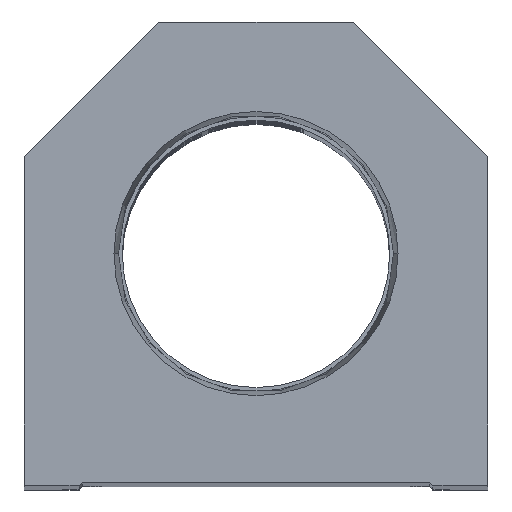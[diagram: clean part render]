
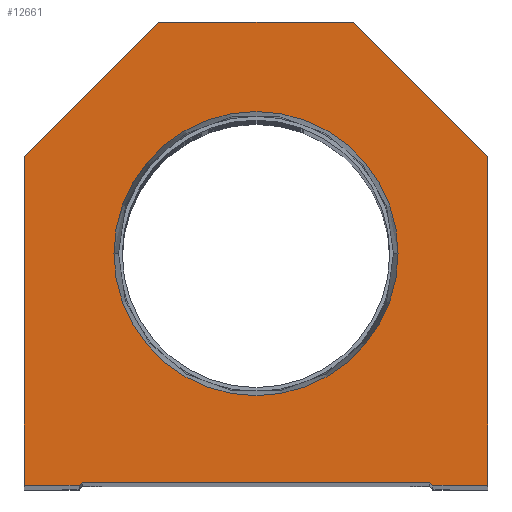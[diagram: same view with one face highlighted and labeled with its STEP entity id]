
A CAD part, top view. The second image highlights one B-rep face of the part: STEP entity #12661.
In plain terms, the highlighted planar face has unit normal (0, 0, 1).
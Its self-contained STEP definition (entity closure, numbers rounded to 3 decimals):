
#290 = CARTESIAN_POINT ( 'NONE',  ( -38.1, 54.1, 0. ) ) ;
#398 = DIRECTION ( 'NONE',  ( -0.707, -0.707, 0. ) ) ;
#625 = DIRECTION ( 'NONE',  ( -1., 0., 0. ) ) ;
#774 = CARTESIAN_POINT ( 'NONE',  ( 16., 76.2, 0. ) ) ;
#890 = EDGE_LOOP ( 'NONE', ( #20116, #17134 ) ) ;
#1413 = ORIENTED_EDGE ( 'NONE', *, *, #19159, .T. ) ;
#1728 = FACE_OUTER_BOUND ( 'NONE', #6979, .T. ) ;
#2006 = LINE ( 'NONE', #290, #9414 ) ;
#2168 = DIRECTION ( 'NONE',  ( -0.707, 0.707, 0. ) ) ;
#2278 = EDGE_CURVE ( 'NONE', #18457, #13259, #13793, .T. ) ;
#2283 = CARTESIAN_POINT ( 'NONE',  ( -16., 76.2, 0. ) ) ;
#2479 = CARTESIAN_POINT ( 'NONE',  ( 0., 38.1, 0. ) ) ;
#2613 = VERTEX_POINT ( 'NONE', #2283 ) ;
#3208 = VECTOR ( 'NONE', #10184, 1000. ) ;
#3381 = VERTEX_POINT ( 'NONE', #11674 ) ;
#3466 = LINE ( 'NONE', #18874, #3208 ) ;
#3636 = VECTOR ( 'NONE', #625, 1000. ) ;
#3738 = VECTOR ( 'NONE', #18887, 1000. ) ;
#3961 = DIRECTION ( 'NONE',  ( 1., 0., 0. ) ) ;
#5020 = EDGE_CURVE ( 'NONE', #18824, #3381, #3466, .T. ) ;
#5120 = ORIENTED_EDGE ( 'NONE', *, *, #11303, .T. ) ;
#5441 = VERTEX_POINT ( 'NONE', #18719 ) ;
#5713 = LINE ( 'NONE', #5904, #3636 ) ;
#5904 = CARTESIAN_POINT ( 'NONE',  ( 16., 76.2, 0. ) ) ;
#6078 = ORIENTED_EDGE ( 'NONE', *, *, #20642, .T. ) ;
#6167 = CARTESIAN_POINT ( 'NONE',  ( 0., 38.1, 0. ) ) ;
#6213 = VERTEX_POINT ( 'NONE', #14356 ) ;
#6866 = VECTOR ( 'NONE', #2168, 1000. ) ;
#6979 = EDGE_LOOP ( 'NONE', ( #10004, #10901, #5120, #10075, #11886, #18547, #9696, #1413, #6078, #21840 ) ) ;
#7231 = AXIS2_PLACEMENT_3D ( 'NONE', #2479, #12459, #14068 ) ;
#7330 = CARTESIAN_POINT ( 'NONE',  ( -29.1, 0., 0. ) ) ;
#7954 = CIRCLE ( 'NONE', #7231, 23.374 ) ;
#8118 = PLANE ( 'NONE',  #16009 ) ;
#8538 = CARTESIAN_POINT ( 'NONE',  ( 38.1, 0., 0. ) ) ;
#8593 = EDGE_CURVE ( 'NONE', #21003, #17944, #14269, .T. ) ;
#8619 = CARTESIAN_POINT ( 'NONE',  ( -28.6, 0.5, 0. ) ) ;
#8674 = DIRECTION ( 'NONE',  ( 0., -1., 0. ) ) ;
#8770 = LINE ( 'NONE', #15631, #11693 ) ;
#9414 = VECTOR ( 'NONE', #398, 1000. ) ;
#9696 = ORIENTED_EDGE ( 'NONE', *, *, #19974, .T. ) ;
#10004 = ORIENTED_EDGE ( 'NONE', *, *, #2278, .T. ) ;
#10075 = ORIENTED_EDGE ( 'NONE', *, *, #5020, .T. ) ;
#10184 = DIRECTION ( 'NONE',  ( 0.707, -0.707, 0. ) ) ;
#10274 = EDGE_CURVE ( 'NONE', #5441, #6213, #16754, .T. ) ;
#10304 = LINE ( 'NONE', #8619, #3738 ) ;
#10468 = EDGE_CURVE ( 'NONE', #13259, #18769, #8770, .T. ) ;
#10901 = ORIENTED_EDGE ( 'NONE', *, *, #10468, .T. ) ;
#10903 = CARTESIAN_POINT ( 'NONE',  ( 28.6, 0., 0. ) ) ;
#10993 = CARTESIAN_POINT ( 'NONE',  ( 38.1, 0., 0. ) ) ;
#11303 = EDGE_CURVE ( 'NONE', #18769, #18824, #10304, .T. ) ;
#11596 = FACE_BOUND ( 'NONE', #890, .T. ) ;
#11674 = CARTESIAN_POINT ( 'NONE',  ( 29.1, 0., 0. ) ) ;
#11693 = VECTOR ( 'NONE', #20834, 1000. ) ;
#11855 = EDGE_CURVE ( 'NONE', #20783, #18457, #19163, .T. ) ;
#11886 = ORIENTED_EDGE ( 'NONE', *, *, #13484, .T. ) ;
#12094 = CARTESIAN_POINT ( 'NONE',  ( -28.6, 0., 0. ) ) ;
#12459 = DIRECTION ( 'NONE',  ( 0., 0., 1. ) ) ;
#12661 = ADVANCED_FACE ( 'NONE', ( #11596, #1728 ), #8118, .T. ) ;
#13110 = VECTOR ( 'NONE', #3961, 1000. ) ;
#13259 = VERTEX_POINT ( 'NONE', #7330 ) ;
#13352 = CARTESIAN_POINT ( 'NONE',  ( 38.1, 54.1, 0. ) ) ;
#13484 = EDGE_CURVE ( 'NONE', #3381, #21003, #17371, .T. ) ;
#13793 = LINE ( 'NONE', #12094, #21440 ) ;
#14045 = DIRECTION ( 'NONE',  ( 0., 1., 0. ) ) ;
#14068 = DIRECTION ( 'NONE',  ( 1., 0., 0. ) ) ;
#14269 = LINE ( 'NONE', #10993, #16304 ) ;
#14356 = CARTESIAN_POINT ( 'NONE',  ( 23.374, 38.1, 0. ) ) ;
#15536 = CARTESIAN_POINT ( 'NONE',  ( -38.1, 0., 0. ) ) ;
#15631 = CARTESIAN_POINT ( 'NONE',  ( -14.55, 14.55, 0. ) ) ;
#15770 = LINE ( 'NONE', #21275, #6866 ) ;
#16009 = AXIS2_PLACEMENT_3D ( 'NONE', #21880, #22209, #22098 ) ;
#16274 = VERTEX_POINT ( 'NONE', #774 ) ;
#16304 = VECTOR ( 'NONE', #14045, 1000. ) ;
#16557 = DIRECTION ( 'NONE',  ( 1., 0., 0. ) ) ;
#16727 = CARTESIAN_POINT ( 'NONE',  ( -28.6, 0.5, 0. ) ) ;
#16754 = CIRCLE ( 'NONE', #18560, 23.374 ) ;
#17068 = VECTOR ( 'NONE', #8674, 1000. ) ;
#17134 = ORIENTED_EDGE ( 'NONE', *, *, #10274, .F. ) ;
#17371 = LINE ( 'NONE', #10903, #13110 ) ;
#17944 = VERTEX_POINT ( 'NONE', #13352 ) ;
#18135 = DIRECTION ( 'NONE',  ( 0., 0., 1. ) ) ;
#18161 = CARTESIAN_POINT ( 'NONE',  ( 28.6, 0.5, 0. ) ) ;
#18457 = VERTEX_POINT ( 'NONE', #18893 ) ;
#18547 = ORIENTED_EDGE ( 'NONE', *, *, #8593, .T. ) ;
#18560 = AXIS2_PLACEMENT_3D ( 'NONE', #6167, #18135, #16557 ) ;
#18719 = CARTESIAN_POINT ( 'NONE',  ( -23.374, 38.1, 0. ) ) ;
#18769 = VERTEX_POINT ( 'NONE', #16727 ) ;
#18824 = VERTEX_POINT ( 'NONE', #18161 ) ;
#18874 = CARTESIAN_POINT ( 'NONE',  ( 14.55, 14.55, 0. ) ) ;
#18887 = DIRECTION ( 'NONE',  ( 1., 0., 0. ) ) ;
#18893 = CARTESIAN_POINT ( 'NONE',  ( -38.1, 0., 0. ) ) ;
#19159 = EDGE_CURVE ( 'NONE', #16274, #2613, #5713, .T. ) ;
#19163 = LINE ( 'NONE', #15536, #17068 ) ;
#19974 = EDGE_CURVE ( 'NONE', #17944, #16274, #15770, .T. ) ;
#19986 = EDGE_CURVE ( 'NONE', #6213, #5441, #7954, .T. ) ;
#20116 = ORIENTED_EDGE ( 'NONE', *, *, #19986, .F. ) ;
#20364 = DIRECTION ( 'NONE',  ( 1., 0., 0. ) ) ;
#20550 = CARTESIAN_POINT ( 'NONE',  ( -38.1, 54.1, 0. ) ) ;
#20642 = EDGE_CURVE ( 'NONE', #2613, #20783, #2006, .T. ) ;
#20783 = VERTEX_POINT ( 'NONE', #20550 ) ;
#20834 = DIRECTION ( 'NONE',  ( 0.707, 0.707, 0. ) ) ;
#21003 = VERTEX_POINT ( 'NONE', #8538 ) ;
#21275 = CARTESIAN_POINT ( 'NONE',  ( 38.1, 54.1, 0. ) ) ;
#21440 = VECTOR ( 'NONE', #20364, 1000. ) ;
#21840 = ORIENTED_EDGE ( 'NONE', *, *, #11855, .T. ) ;
#21880 = CARTESIAN_POINT ( 'NONE',  ( 0., 0., 0. ) ) ;
#22098 = DIRECTION ( 'NONE',  ( 1., 0., 0. ) ) ;
#22209 = DIRECTION ( 'NONE',  ( 0., 0., 1. ) ) ;
